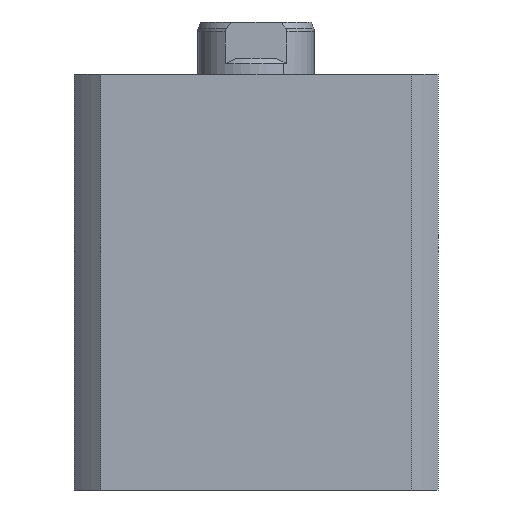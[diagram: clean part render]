
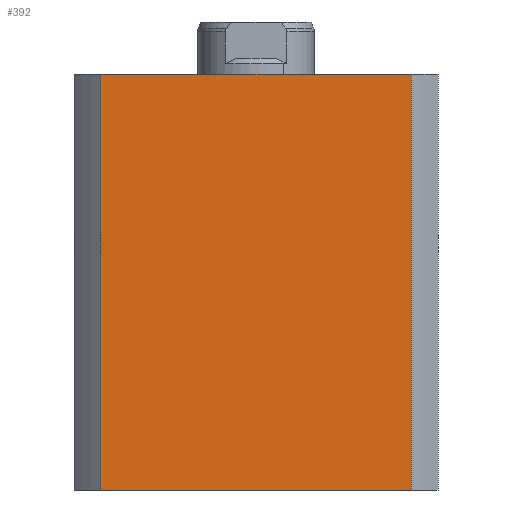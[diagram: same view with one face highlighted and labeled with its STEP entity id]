
A CAD part, left-side view. The second image highlights one B-rep face of the part: STEP entity #392.
In plain terms, the highlighted planar face has unit normal (-1, 0, 0).
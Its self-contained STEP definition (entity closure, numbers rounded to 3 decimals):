
#372=AXIS2_PLACEMENT_3D('Plane Axis2P3D',#369,#370,#371) ;
#105=CARTESIAN_POINT('Vertex',(-35.,29.85,80.)) ;
#108=CARTESIAN_POINT('Line Origine',(-35.,0.,80.)) ;
#112=CARTESIAN_POINT('Vertex',(-35.,-29.85,80.)) ;
#350=CARTESIAN_POINT('Line Origine',(-35.,29.85,40.)) ;
#354=CARTESIAN_POINT('Vertex',(-35.,29.85,0.)) ;
#369=CARTESIAN_POINT('Axis2P3D Location',(-35.,35.,80.)) ;
#374=CARTESIAN_POINT('Line Origine',(-35.,0.,0.)) ;
#378=CARTESIAN_POINT('Vertex',(-35.,-29.85,0.)) ;
#381=CARTESIAN_POINT('Line Origine',(-35.,-29.85,40.)) ;
#109=DIRECTION('Vector Direction',(0.,-1.,0.)) ;
#351=DIRECTION('Vector Direction',(0.,0.,1.)) ;
#370=DIRECTION('Axis2P3D Direction',(1.,0.,0.)) ;
#371=DIRECTION('Axis2P3D XDirection',(0.,-1.,0.)) ;
#375=DIRECTION('Vector Direction',(0.,-1.,0.)) ;
#382=DIRECTION('Vector Direction',(0.,0.,-1.)) ;
#110=VECTOR('Line Direction',#109,1.) ;
#352=VECTOR('Line Direction',#351,1.) ;
#376=VECTOR('Line Direction',#375,1.) ;
#383=VECTOR('Line Direction',#382,1.) ;
#387=ORIENTED_EDGE('',*,*,#356,.T.) ;
#388=ORIENTED_EDGE('',*,*,#380,.T.) ;
#389=ORIENTED_EDGE('',*,*,#385,.F.) ;
#390=ORIENTED_EDGE('',*,*,#114,.F.) ;
#392=ADVANCED_FACE('PartBody',(#391),#373,.F.) ;
#114=EDGE_CURVE('',#106,#113,#111,.T.) ;
#356=EDGE_CURVE('',#106,#355,#353,.F.) ;
#380=EDGE_CURVE('',#355,#379,#377,.T.) ;
#385=EDGE_CURVE('',#113,#379,#384,.T.) ;
#386=EDGE_LOOP('',(#387,#388,#389,#390)) ;
#391=FACE_OUTER_BOUND('',#386,.T.) ;
#111=LINE('Line',#108,#110) ;
#353=LINE('Line',#350,#352) ;
#377=LINE('Line',#374,#376) ;
#384=LINE('Line',#381,#383) ;
#373=PLANE('Plane',#372) ;
#106=VERTEX_POINT('',#105) ;
#113=VERTEX_POINT('',#112) ;
#355=VERTEX_POINT('',#354) ;
#379=VERTEX_POINT('',#378) ;
